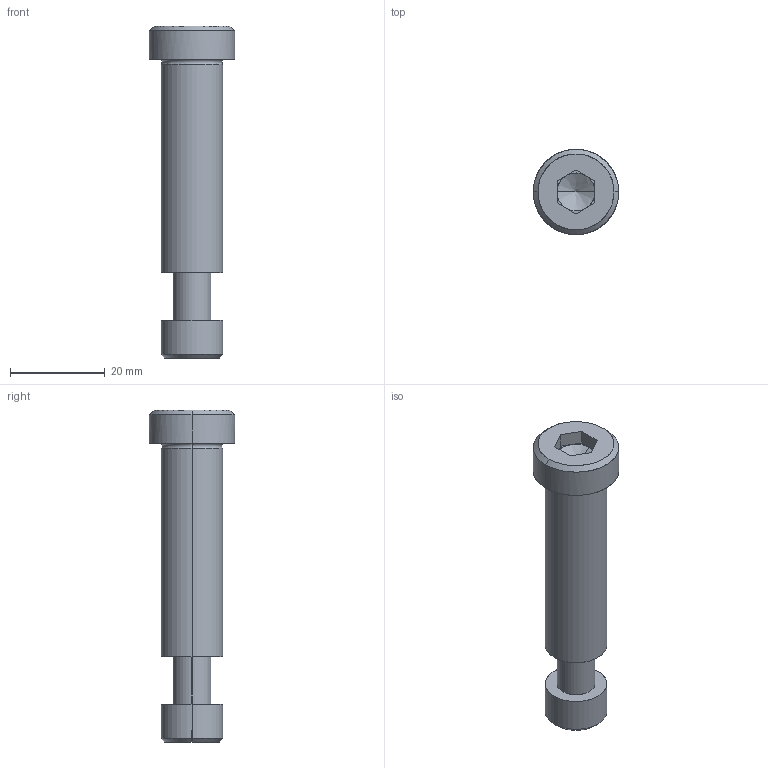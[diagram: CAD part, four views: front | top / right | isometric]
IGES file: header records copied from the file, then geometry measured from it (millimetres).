
Global section: file name: E:\UnigraphicsGraphicData\MISUMI_PRESS-PARTS\IGES\3d_sbtc13-45_05090_r00.igs; native system: NX V5.0; preprocessor: UGS NX IGES V5.0; author: MISUMI; date: 20110105.162445; units: millimetre
Bounding box: 18 x 18 x 70 mm (x, y, z)
Surface area: 4497 mm2 (no closed solid volume)
Topology: 0 solids, 0 shells, 52 faces, 286 edges, 282 vertices
Faces by surface type: bspline 52
